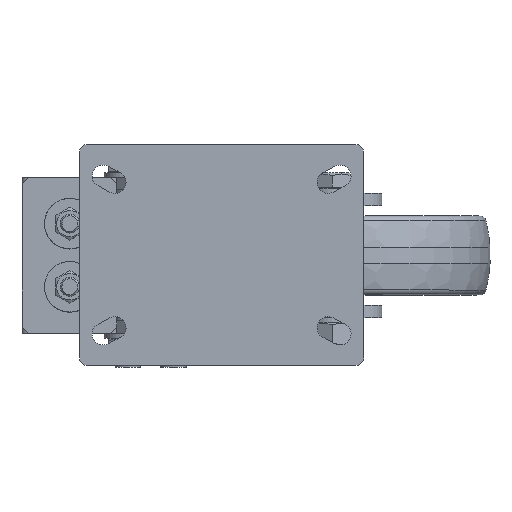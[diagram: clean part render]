
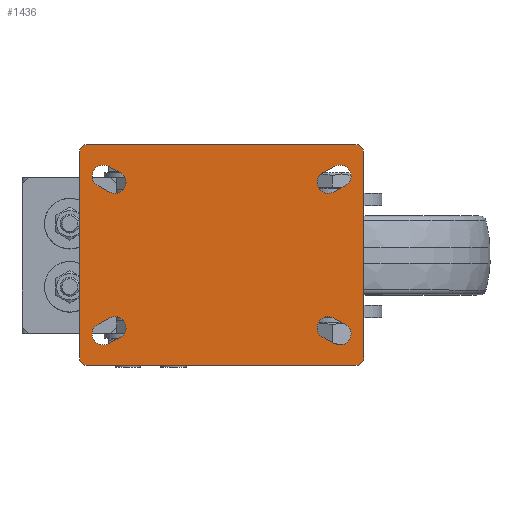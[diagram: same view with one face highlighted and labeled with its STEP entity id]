
A CAD part, top view. The second image highlights one B-rep face of the part: STEP entity #1436.
In plain terms, the highlighted planar face has unit normal (0, 0, 1).
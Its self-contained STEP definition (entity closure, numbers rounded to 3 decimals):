
#763=FACE_BOUND('',#2939,.T.);
#764=FACE_BOUND('',#2940,.T.);
#765=FACE_BOUND('',#2941,.T.);
#766=FACE_BOUND('',#2942,.T.);
#767=FACE_BOUND('',#2943,.T.);
#1032=CIRCLE('',#9708,5.);
#1034=CIRCLE('',#9711,5.);
#1036=CIRCLE('',#9714,5.);
#1038=CIRCLE('',#9717,5.);
#1039=CIRCLE('',#9727,7.);
#1041=CIRCLE('',#9731,7.);
#1043=CIRCLE('',#9734,7.);
#1045=CIRCLE('',#9738,7.);
#1047=CIRCLE('',#9741,7.);
#1049=CIRCLE('',#9745,7.);
#1051=CIRCLE('',#9748,7.);
#1053=CIRCLE('',#9752,7.);
#1436=ADVANCED_FACE('',(#763,#764,#765,#766,#767),#1890,.T.);
#1890=PLANE('',#9756);
#2939=EDGE_LOOP('',(#4356,#4357,#4358,#4359));
#2940=EDGE_LOOP('',(#4360,#4361,#4362,#4363));
#2941=EDGE_LOOP('',(#4364,#4365,#4366,#4367));
#2942=EDGE_LOOP('',(#4368,#4369,#4370,#4371));
#2943=EDGE_LOOP('',(#4372,#4373,#4374,#4375,#4376,#4377,#4378,#4379));
#4356=ORIENTED_EDGE('',*,*,#7327,.F.);
#4357=ORIENTED_EDGE('',*,*,#7324,.F.);
#4358=ORIENTED_EDGE('',*,*,#7321,.F.);
#4359=ORIENTED_EDGE('',*,*,#7273,.F.);
#4360=ORIENTED_EDGE('',*,*,#7319,.T.);
#4361=ORIENTED_EDGE('',*,*,#7316,.T.);
#4362=ORIENTED_EDGE('',*,*,#7313,.T.);
#4363=ORIENTED_EDGE('',*,*,#7287,.T.);
#4364=ORIENTED_EDGE('',*,*,#7311,.T.);
#4365=ORIENTED_EDGE('',*,*,#7308,.T.);
#4366=ORIENTED_EDGE('',*,*,#7305,.T.);
#4367=ORIENTED_EDGE('',*,*,#7283,.T.);
#4368=ORIENTED_EDGE('',*,*,#7303,.F.);
#4369=ORIENTED_EDGE('',*,*,#7300,.F.);
#4370=ORIENTED_EDGE('',*,*,#7297,.F.);
#4371=ORIENTED_EDGE('',*,*,#7279,.F.);
#4372=ORIENTED_EDGE('',*,*,#7296,.T.);
#4373=ORIENTED_EDGE('',*,*,#7271,.T.);
#4374=ORIENTED_EDGE('',*,*,#7293,.T.);
#4375=ORIENTED_EDGE('',*,*,#7267,.T.);
#4376=ORIENTED_EDGE('',*,*,#7291,.T.);
#4377=ORIENTED_EDGE('',*,*,#7259,.T.);
#4378=ORIENTED_EDGE('',*,*,#7278,.T.);
#4379=ORIENTED_EDGE('',*,*,#7263,.T.);
#6237=VERTEX_POINT('',#20260);
#6238=VERTEX_POINT('',#20262);
#6241=VERTEX_POINT('',#20269);
#6242=VERTEX_POINT('',#20271);
#6245=VERTEX_POINT('',#20278);
#6246=VERTEX_POINT('',#20280);
#6249=VERTEX_POINT('',#20287);
#6250=VERTEX_POINT('',#20289);
#6251=VERTEX_POINT('',#20293);
#6252=VERTEX_POINT('',#20294);
#6255=VERTEX_POINT('',#20305);
#6256=VERTEX_POINT('',#20306);
#6259=VERTEX_POINT('',#20314);
#6260=VERTEX_POINT('',#20315);
#6263=VERTEX_POINT('',#20323);
#6264=VERTEX_POINT('',#20324);
#6267=VERTEX_POINT('',#20341);
#6269=VERTEX_POINT('',#20347);
#6271=VERTEX_POINT('',#20356);
#6273=VERTEX_POINT('',#20362);
#6275=VERTEX_POINT('',#20371);
#6277=VERTEX_POINT('',#20377);
#6279=VERTEX_POINT('',#20386);
#6281=VERTEX_POINT('',#20392);
#7259=EDGE_CURVE('',#6238,#6237,#1032,.T.);
#7263=EDGE_CURVE('',#6242,#6241,#1034,.T.);
#7267=EDGE_CURVE('',#6246,#6245,#1036,.T.);
#7271=EDGE_CURVE('',#6250,#6249,#1038,.T.);
#7273=EDGE_CURVE('',#6251,#6252,#8308,.T.);
#7278=EDGE_CURVE('',#6237,#6242,#8313,.T.);
#7279=EDGE_CURVE('',#6255,#6256,#8314,.T.);
#7283=EDGE_CURVE('',#6259,#6260,#8318,.T.);
#7287=EDGE_CURVE('',#6263,#6264,#8322,.T.);
#7291=EDGE_CURVE('',#6245,#6238,#8326,.T.);
#7293=EDGE_CURVE('',#6249,#6246,#8328,.T.);
#7296=EDGE_CURVE('',#6241,#6250,#8331,.T.);
#7297=EDGE_CURVE('',#6256,#6267,#1039,.T.);
#7300=EDGE_CURVE('',#6267,#6269,#8333,.T.);
#7303=EDGE_CURVE('',#6269,#6255,#1041,.T.);
#7305=EDGE_CURVE('',#6271,#6259,#1043,.T.);
#7308=EDGE_CURVE('',#6273,#6271,#8337,.T.);
#7311=EDGE_CURVE('',#6260,#6273,#1045,.T.);
#7313=EDGE_CURVE('',#6275,#6263,#1047,.T.);
#7316=EDGE_CURVE('',#6277,#6275,#8341,.T.);
#7319=EDGE_CURVE('',#6264,#6277,#1049,.T.);
#7321=EDGE_CURVE('',#6252,#6279,#1051,.T.);
#7324=EDGE_CURVE('',#6279,#6281,#8345,.T.);
#7327=EDGE_CURVE('',#6281,#6251,#1053,.T.);
#8308=LINE('',#20292,#8932);
#8313=LINE('',#20302,#8937);
#8314=LINE('',#20304,#8938);
#8318=LINE('',#20313,#8942);
#8322=LINE('',#20322,#8946);
#8326=LINE('',#20331,#8950);
#8328=LINE('',#20334,#8952);
#8331=LINE('',#20338,#8955);
#8333=LINE('',#20346,#8957);
#8337=LINE('',#20361,#8961);
#8341=LINE('',#20376,#8965);
#8345=LINE('',#20391,#8969);
#8932=VECTOR('',#11204,1.);
#8937=VECTOR('',#11211,1.);
#8938=VECTOR('',#11214,1.);
#8942=VECTOR('',#11220,1.);
#8946=VECTOR('',#11226,1.);
#8950=VECTOR('',#11232,1.);
#8952=VECTOR('',#11236,1.);
#8955=VECTOR('',#11241,1.);
#8957=VECTOR('',#11251,1.);
#8961=VECTOR('',#11269,1.);
#8965=VECTOR('',#11287,1.);
#8969=VECTOR('',#11305,1.);
#9708=AXIS2_PLACEMENT_3D('',#20261,#11175,#11176);
#9711=AXIS2_PLACEMENT_3D('',#20270,#11183,#11184);
#9714=AXIS2_PLACEMENT_3D('',#20279,#11191,#11192);
#9717=AXIS2_PLACEMENT_3D('',#20288,#11199,#11200);
#9727=AXIS2_PLACEMENT_3D('',#20340,#11244,#11245);
#9731=AXIS2_PLACEMENT_3D('',#20352,#11256,#11257);
#9734=AXIS2_PLACEMENT_3D('',#20355,#11262,#11263);
#9738=AXIS2_PLACEMENT_3D('',#20367,#11274,#11275);
#9741=AXIS2_PLACEMENT_3D('',#20370,#11280,#11281);
#9745=AXIS2_PLACEMENT_3D('',#20382,#11292,#11293);
#9748=AXIS2_PLACEMENT_3D('',#20385,#11298,#11299);
#9752=AXIS2_PLACEMENT_3D('',#20397,#11310,#11311);
#9756=AXIS2_PLACEMENT_3D('',#20409,#11322,#11323);
#11175=DIRECTION('',(0.,0.,1.));
#11176=DIRECTION('',(-1.,0.,0.));
#11183=DIRECTION('',(0.,0.,1.));
#11184=DIRECTION('',(-1.,0.,0.));
#11191=DIRECTION('',(0.,0.,1.));
#11192=DIRECTION('',(-1.,0.,0.));
#11199=DIRECTION('',(0.,0.,1.));
#11200=DIRECTION('',(-1.,0.,0.));
#11204=DIRECTION('',(0.882,-0.471,0.));
#11211=DIRECTION('',(-1.,0.,0.));
#11214=DIRECTION('',(0.882,-0.471,0.));
#11220=DIRECTION('',(-0.882,-0.471,0.));
#11226=DIRECTION('',(-0.882,-0.471,0.));
#11232=DIRECTION('',(0.,1.,0.));
#11236=DIRECTION('',(1.,0.,0.));
#11241=DIRECTION('',(0.,-1.,0.));
#11244=DIRECTION('',(0.,0.,1.));
#11245=DIRECTION('',(1.,0.,0.));
#11251=DIRECTION('',(-0.882,0.471,0.));
#11256=DIRECTION('',(0.,0.,1.));
#11257=DIRECTION('',(1.,0.,0.));
#11262=DIRECTION('',(0.,0.,-1.));
#11263=DIRECTION('',(1.,0.,0.));
#11269=DIRECTION('',(0.882,0.471,0.));
#11274=DIRECTION('',(0.,0.,-1.));
#11275=DIRECTION('',(1.,0.,0.));
#11280=DIRECTION('',(0.,0.,-1.));
#11281=DIRECTION('',(-1.,0.,0.));
#11287=DIRECTION('',(0.882,0.471,0.));
#11292=DIRECTION('',(0.,0.,-1.));
#11293=DIRECTION('',(-1.,0.,0.));
#11298=DIRECTION('',(0.,0.,1.));
#11299=DIRECTION('',(-1.,0.,0.));
#11305=DIRECTION('',(-0.882,0.471,0.));
#11310=DIRECTION('',(0.,0.,1.));
#11311=DIRECTION('',(-1.,0.,0.));
#11322=DIRECTION('',(0.,0.,1.));
#11323=DIRECTION('',(-1.,0.,0.));
#20260=CARTESIAN_POINT('',(85.,70.,-35.362));
#20261=CARTESIAN_POINT('',(85.,65.,-35.362));
#20262=CARTESIAN_POINT('',(90.,65.,-35.362));
#20269=CARTESIAN_POINT('',(-90.,65.,-35.362));
#20270=CARTESIAN_POINT('',(-85.,65.,-35.362));
#20271=CARTESIAN_POINT('',(-85.,70.,-35.362));
#20278=CARTESIAN_POINT('',(90.,-65.,-35.362));
#20279=CARTESIAN_POINT('',(85.,-65.,-35.362));
#20280=CARTESIAN_POINT('',(85.,-70.,-35.362));
#20287=CARTESIAN_POINT('',(-85.,-70.,-35.362));
#20288=CARTESIAN_POINT('',(-85.,-65.,-35.362));
#20289=CARTESIAN_POINT('',(-90.,-65.,-35.362));
#20292=CARTESIAN_POINT('',(64.206,-52.176,-35.362));
#20293=CARTESIAN_POINT('',(64.206,-52.176,-35.362));
#20294=CARTESIAN_POINT('',(71.706,-56.176,-35.362));
#20302=CARTESIAN_POINT('',(90.,70.,-35.362));
#20304=CARTESIAN_POINT('',(-78.294,43.824,-35.362));
#20305=CARTESIAN_POINT('',(-78.294,43.824,-35.362));
#20306=CARTESIAN_POINT('',(-70.794,39.824,-35.362));
#20313=CARTESIAN_POINT('',(-64.206,-52.176,-35.362));
#20314=CARTESIAN_POINT('',(-64.206,-52.176,-35.362));
#20315=CARTESIAN_POINT('',(-71.706,-56.176,-35.362));
#20322=CARTESIAN_POINT('',(78.294,43.824,-35.362));
#20323=CARTESIAN_POINT('',(78.294,43.824,-35.362));
#20324=CARTESIAN_POINT('',(70.794,39.824,-35.362));
#20331=CARTESIAN_POINT('',(90.,-70.,-35.362));
#20334=CARTESIAN_POINT('',(-90.,-70.,-35.362));
#20338=CARTESIAN_POINT('',(-90.,70.,-35.362));
#20340=CARTESIAN_POINT('',(-67.5,46.,-35.362));
#20341=CARTESIAN_POINT('',(-64.206,52.176,-35.362));
#20346=CARTESIAN_POINT('',(-64.206,52.176,-35.362));
#20347=CARTESIAN_POINT('',(-71.706,56.176,-35.362));
#20352=CARTESIAN_POINT('',(-75.,50.,-35.362));
#20355=CARTESIAN_POINT('',(-67.5,-46.,-35.362));
#20356=CARTESIAN_POINT('',(-70.794,-39.824,-35.362));
#20361=CARTESIAN_POINT('',(-78.294,-43.824,-35.362));
#20362=CARTESIAN_POINT('',(-78.294,-43.824,-35.362));
#20367=CARTESIAN_POINT('',(-75.,-50.,-35.362));
#20370=CARTESIAN_POINT('',(75.,50.,-35.362));
#20371=CARTESIAN_POINT('',(71.706,56.176,-35.362));
#20376=CARTESIAN_POINT('',(64.206,52.176,-35.362));
#20377=CARTESIAN_POINT('',(64.206,52.176,-35.362));
#20382=CARTESIAN_POINT('',(67.5,46.,-35.362));
#20385=CARTESIAN_POINT('',(75.,-50.,-35.362));
#20386=CARTESIAN_POINT('',(78.294,-43.824,-35.362));
#20391=CARTESIAN_POINT('',(78.294,-43.824,-35.362));
#20392=CARTESIAN_POINT('',(70.794,-39.824,-35.362));
#20397=CARTESIAN_POINT('',(67.5,-46.,-35.362));
#20409=CARTESIAN_POINT('',(-75.,50.,-35.362));
